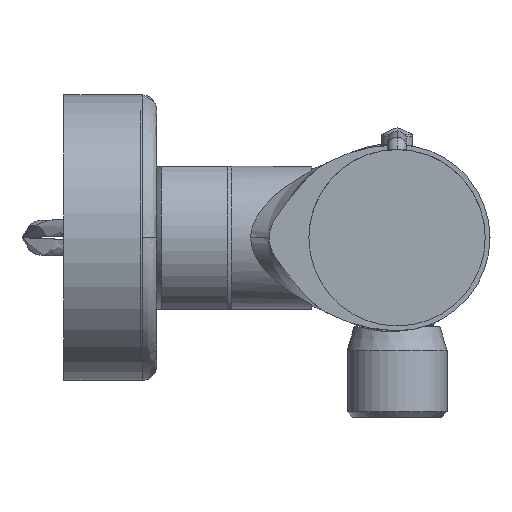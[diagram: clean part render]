
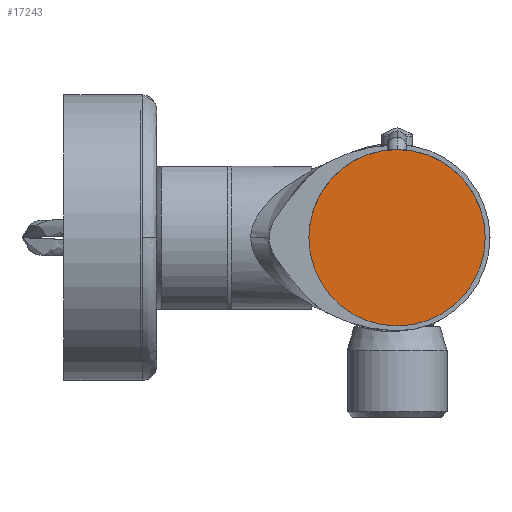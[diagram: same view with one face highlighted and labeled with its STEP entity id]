
A CAD part, left-side view. The second image highlights one B-rep face of the part: STEP entity #17243.
In plain terms, the highlighted planar face has unit normal (-1, 0, 0).
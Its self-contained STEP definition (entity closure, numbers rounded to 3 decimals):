
#1797 = EDGE_LOOP ( 'NONE', ( #25343, #25002 ) ) ;
#2019 = AXIS2_PLACEMENT_3D ( 'NONE', #11254, #19656, #16565 ) ;
#3548 = EDGE_CURVE ( 'NONE', #13434, #5432, #9837, .T. ) ;
#5093 = AXIS2_PLACEMENT_3D ( 'NONE', #7803, #22041, #10530 ) ;
#5432 = VERTEX_POINT ( 'NONE', #29724 ) ;
#6428 = EDGE_CURVE ( 'NONE', #5432, #13434, #17766, .T. ) ;
#7803 = CARTESIAN_POINT ( 'NONE',  ( -37.558, -11.5, 0. ) ) ;
#9837 = CIRCLE ( 'NONE', #30221, 18.5 ) ;
#10530 = DIRECTION ( 'NONE',  ( 0., 0., -1. ) ) ;
#11254 = CARTESIAN_POINT ( 'NONE',  ( -37.558, -2.25, 0. ) ) ;
#13434 = VERTEX_POINT ( 'NONE', #31916 ) ;
#15478 = DIRECTION ( 'NONE',  ( 1., 0., 0. ) ) ;
#16565 = DIRECTION ( 'NONE',  ( 0., 0., -1. ) ) ;
#17243 = ADVANCED_FACE ( 'NONE', ( #19309 ), #27517, .F. ) ;
#17766 = CIRCLE ( 'NONE', #2019, 18.5 ) ;
#19309 = FACE_OUTER_BOUND ( 'NONE', #1797, .T. ) ;
#19656 = DIRECTION ( 'NONE',  ( 1., 0., 0. ) ) ;
#20797 = DIRECTION ( 'NONE',  ( 0., 0., -1. ) ) ;
#22041 = DIRECTION ( 'NONE',  ( 1., 0., 0. ) ) ;
#25002 = ORIENTED_EDGE ( 'NONE', *, *, #6428, .F. ) ;
#25343 = ORIENTED_EDGE ( 'NONE', *, *, #3548, .F. ) ;
#27517 = PLANE ( 'NONE',  #5093 ) ;
#29724 = CARTESIAN_POINT ( 'NONE',  ( -37.558, -20.75, 0. ) ) ;
#30221 = AXIS2_PLACEMENT_3D ( 'NONE', #32073, #15478, #20797 ) ;
#31916 = CARTESIAN_POINT ( 'NONE',  ( -37.558, 16.25, 0. ) ) ;
#32073 = CARTESIAN_POINT ( 'NONE',  ( -37.558, -2.25, 0. ) ) ;
